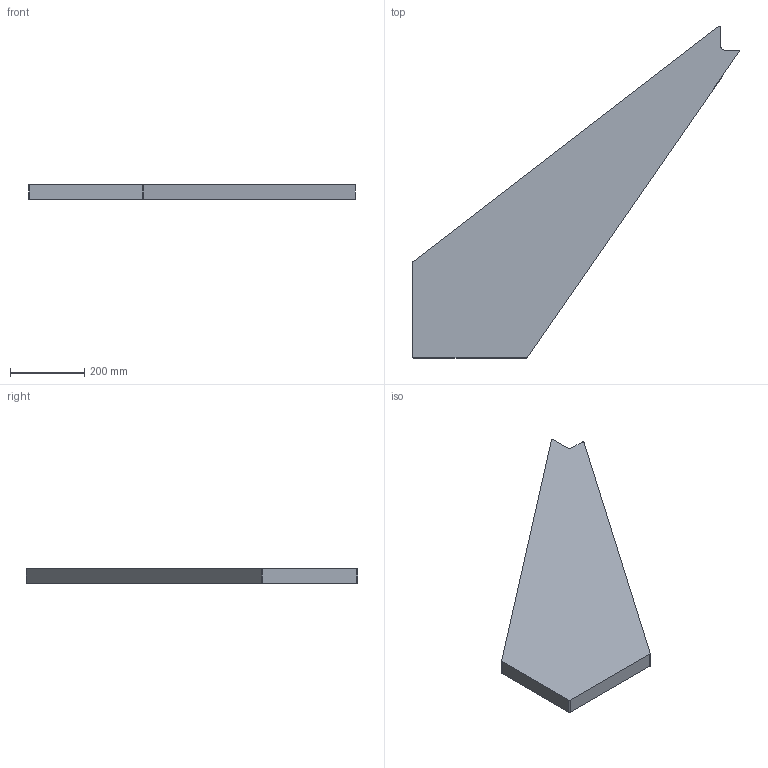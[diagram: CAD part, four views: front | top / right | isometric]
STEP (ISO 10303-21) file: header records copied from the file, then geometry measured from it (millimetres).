
FILE_DESCRIPTION(/* description */ (''),/* implementation_level */ '2;1');
FILE_NAME(/* name */ 'Pos101-Hout D= 40-Hout-3st',/* time_stamp */ '2024-08-06T13:37:43+02:00',/* author */ (''),/* organization */ (''),/* preprocessor_version */ 'ST-DEVELOPER v16.5',/* originating_system */ 'HiCAD 2024 2901.2 Build 361',/* authorisation */ '');
FILE_SCHEMA (('AUTOMOTIVE_DESIGN { 1 0 10303 214 1 1 1 1 }'));
Length unit declared in the file: millimetre
Products named in the file (2): Pos101-Hout D= 40-Hout-3st; Pos0-Antislip-Rubber-0st
Assembly tree (1 placements, depth 2):
  Pos101-Hout D= 40-Hout-3st
    Pos0-Antislip-Rubber-0st
Bounding box: 880.94 x 895.22 x 40 mm (x, y, z)
Volume: 11444037.4 mm3; surface area: 681376.5 mm2
Topology: 1 solids, 1 shells, 14 faces, 36 edges, 24 vertices
Faces by surface type: plane 8, cylinder 6
Entity records: 836 total; most frequent: DIRECTION 80, CARTESIAN_POINT 76, PRESENTATION_STYLE_ASSIGNMENT 73, COLOUR_RGB 73, DRAUGHTING_PRE_DEFINED_CURVE_FONT 72, CURVE_STYLE 72, OVER_RIDING_STYLED_ITEM 72, ORIENTED_EDGE 72
